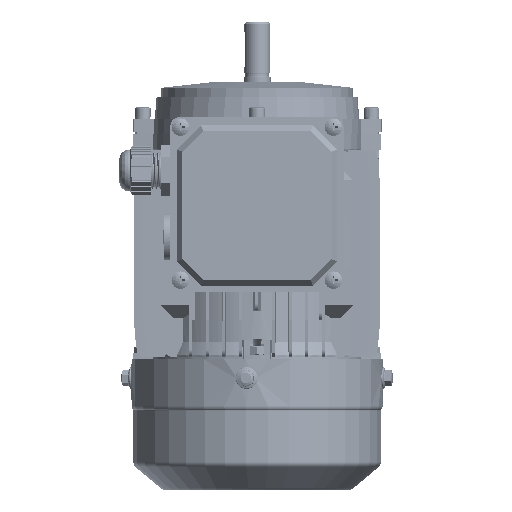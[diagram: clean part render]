
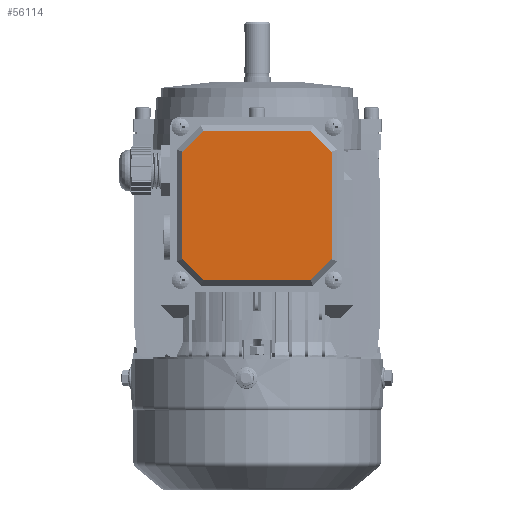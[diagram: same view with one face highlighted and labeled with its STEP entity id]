
A CAD part, left-side view. The second image highlights one B-rep face of the part: STEP entity #56114.
In plain terms, the highlighted planar face has unit normal (-1, 0, 0) as drawn and (0, 1, 0) by its records, which use the part's own axes.
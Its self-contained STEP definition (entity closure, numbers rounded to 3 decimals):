
#1929 = VECTOR ( 'NONE', #38584, 1000. ) ;
#6633 = CARTESIAN_POINT ( 'NONE',  ( 40.5, 6., -29.15 ) ) ;
#8256 = EDGE_CURVE ( 'NONE', #94579, #65238, #65650, .T. ) ;
#13334 = CARTESIAN_POINT ( 'NONE',  ( -40.5, 6., 29.15 ) ) ;
#17844 = FACE_OUTER_BOUND ( 'NONE', #105750, .T. ) ;
#18523 = DIRECTION ( 'NONE',  ( -0.707, 0., 0.707 ) ) ;
#18535 = CARTESIAN_POINT ( 'NONE',  ( 40.5, 6., 29.15 ) ) ;
#18713 = VECTOR ( 'NONE', #103369, 1000. ) ;
#20153 = DIRECTION ( 'NONE',  ( 0., -1., 0. ) ) ;
#21472 = EDGE_CURVE ( 'NONE', #39709, #127063, #67691, .T. ) ;
#25518 = ORIENTED_EDGE ( 'NONE', *, *, #44859, .T. ) ;
#30588 = CARTESIAN_POINT ( 'NONE',  ( 29.15, 6., 40.5 ) ) ;
#31208 = ORIENTED_EDGE ( 'NONE', *, *, #8256, .T. ) ;
#32828 = LINE ( 'NONE', #41161, #112628 ) ;
#36148 = CARTESIAN_POINT ( 'NONE',  ( 34.825, 6., 34.825 ) ) ;
#36564 = VERTEX_POINT ( 'NONE', #6633 ) ;
#37756 = EDGE_CURVE ( 'NONE', #65238, #96268, #40648, .T. ) ;
#38584 = DIRECTION ( 'NONE',  ( 0., 0., -1. ) ) ;
#38587 = CARTESIAN_POINT ( 'NONE',  ( -34.825, 6., -34.825 ) ) ;
#39709 = VERTEX_POINT ( 'NONE', #30588 ) ;
#40449 = VERTEX_POINT ( 'NONE', #13334 ) ;
#40648 = LINE ( 'NONE', #38587, #117344 ) ;
#41084 = VECTOR ( 'NONE', #96065, 1000. ) ;
#41161 = CARTESIAN_POINT ( 'NONE',  ( -40.5, 6., 0. ) ) ;
#41904 = EDGE_CURVE ( 'NONE', #36564, #94579, #86546, .T. ) ;
#42866 = CARTESIAN_POINT ( 'NONE',  ( -40.5, 6., -29.15 ) ) ;
#43428 = CARTESIAN_POINT ( 'NONE',  ( 0., 6., -40.5 ) ) ;
#43873 = DIRECTION ( 'NONE',  ( 0.707, 0., 0.707 ) ) ;
#44160 = ORIENTED_EDGE ( 'NONE', *, *, #21472, .T. ) ;
#44859 = EDGE_CURVE ( 'NONE', #40449, #69894, #90882, .T. ) ;
#46766 = CARTESIAN_POINT ( 'NONE',  ( -29.15, 6., -40.5 ) ) ;
#49516 = DIRECTION ( 'NONE',  ( -0.707, 0., -0.707 ) ) ;
#54695 = ORIENTED_EDGE ( 'NONE', *, *, #41904, .T. ) ;
#55079 = LINE ( 'NONE', #108559, #1929 ) ;
#56114 = ADVANCED_FACE ( 'NONE', ( #17844 ), #79628, .F. ) ;
#56810 = VECTOR ( 'NONE', #49516, 1000. ) ;
#59894 = ORIENTED_EDGE ( 'NONE', *, *, #124350, .T. ) ;
#59960 = CARTESIAN_POINT ( 'NONE',  ( 0., 6., 0. ) ) ;
#62230 = ORIENTED_EDGE ( 'NONE', *, *, #92428, .T. ) ;
#65238 = VERTEX_POINT ( 'NONE', #46766 ) ;
#65650 = LINE ( 'NONE', #43428, #18713 ) ;
#67691 = LINE ( 'NONE', #36148, #41084 ) ;
#69894 = VERTEX_POINT ( 'NONE', #127116 ) ;
#72355 = CARTESIAN_POINT ( 'NONE',  ( 29.15, 6., -40.5 ) ) ;
#73065 = ORIENTED_EDGE ( 'NONE', *, *, #37756, .T. ) ;
#73220 = VECTOR ( 'NONE', #85120, 1000. ) ;
#75057 = CARTESIAN_POINT ( 'NONE',  ( 0., 6., 40.5 ) ) ;
#79628 = PLANE ( 'NONE',  #112296 ) ;
#85120 = DIRECTION ( 'NONE',  ( 1., 0., 0. ) ) ;
#85304 = EDGE_CURVE ( 'NONE', #96268, #40449, #32828, .T. ) ;
#86546 = LINE ( 'NONE', #99342, #56810 ) ;
#87712 = VECTOR ( 'NONE', #43873, 1000. ) ;
#90114 = DIRECTION ( 'NONE',  ( 0., 0., -1. ) ) ;
#90882 = LINE ( 'NONE', #113851, #87712 ) ;
#92428 = EDGE_CURVE ( 'NONE', #69894, #39709, #102915, .T. ) ;
#94579 = VERTEX_POINT ( 'NONE', #72355 ) ;
#96065 = DIRECTION ( 'NONE',  ( 0.707, 0., -0.707 ) ) ;
#96268 = VERTEX_POINT ( 'NONE', #42866 ) ;
#99342 = CARTESIAN_POINT ( 'NONE',  ( 34.825, 6., -34.825 ) ) ;
#99591 = ORIENTED_EDGE ( 'NONE', *, *, #85304, .T. ) ;
#102915 = LINE ( 'NONE', #75057, #73220 ) ;
#103369 = DIRECTION ( 'NONE',  ( -1., 0., 0. ) ) ;
#105750 = EDGE_LOOP ( 'NONE', ( #44160, #59894, #54695, #31208, #73065, #99591, #25518, #62230 ) ) ;
#108559 = CARTESIAN_POINT ( 'NONE',  ( 40.5, 6., 0. ) ) ;
#111149 = DIRECTION ( 'NONE',  ( 0., 0., 1. ) ) ;
#112296 = AXIS2_PLACEMENT_3D ( 'NONE', #59960, #20153, #90114 ) ;
#112628 = VECTOR ( 'NONE', #111149, 1000. ) ;
#113851 = CARTESIAN_POINT ( 'NONE',  ( -34.825, 6., 34.825 ) ) ;
#117344 = VECTOR ( 'NONE', #18523, 1000. ) ;
#124350 = EDGE_CURVE ( 'NONE', #127063, #36564, #55079, .T. ) ;
#127063 = VERTEX_POINT ( 'NONE', #18535 ) ;
#127116 = CARTESIAN_POINT ( 'NONE',  ( -29.15, 6., 40.5 ) ) ;
